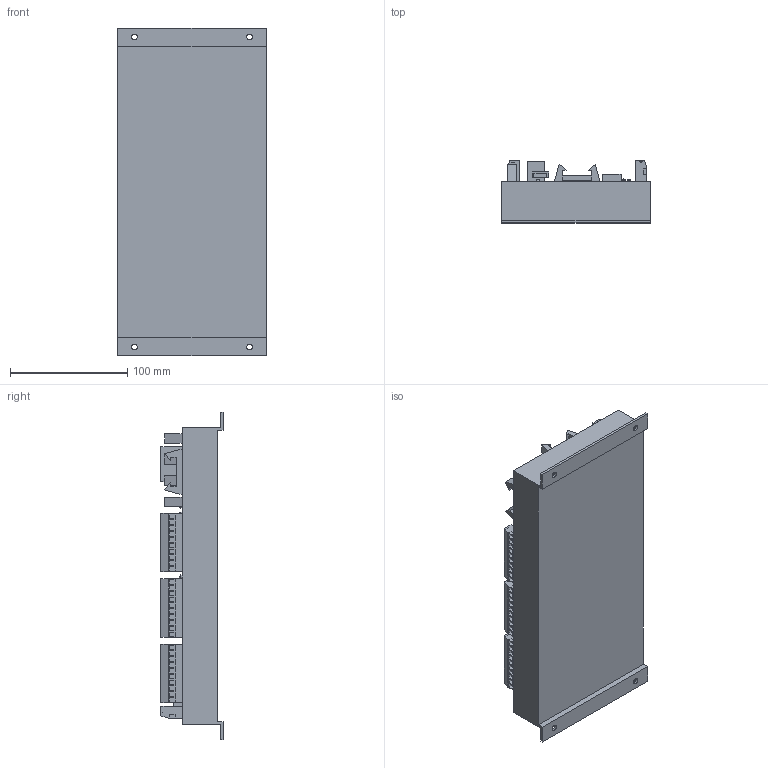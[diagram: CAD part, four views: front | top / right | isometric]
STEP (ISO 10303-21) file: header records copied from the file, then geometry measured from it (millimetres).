
FILE_DESCRIPTION (( 'STEP AP214' ), '1' );
FILE_NAME ('ZMC212.STEP', '2018-08-24T09:25:43', ( 'Microsoft' ), ( ' ' ), 'SwSTEP 2.0', 'SolidWorks 2014', '' );
FILE_SCHEMA (( 'AUTOMOTIVE_DESIGN' ));
Length unit declared in the file: millimetre
Products named in the file (12): U攫; 16渀-2齬-籟褒; 傷赽-湮-5; 傷赽-湮-3; 厙諳-傻; 9渀-2齬-鼠芛; ZMC212-俋褲; ZMC212; 三连灯; 傷赽-湮-6; 傷赽-湮-10; 腑
Assembly tree (24 placements, depth 3):
  ZMC212
    ZMC212-俋褲
    9渀-2齬-鼠芛
    厙諳-傻
    傷赽-湮-3
    傷赽-湮-5
    16渀-2齬-籟褒  x7
    U攫
    腑  x2
    傷赽-湮-10  x4
    傷赽-湮-6
    三连灯
      腑  x3
Bounding box: 127 x 53 x 280 mm (x, y, z)
Volume: 1029064.3 mm3; surface area: 134275.7 mm2
Topology: 74 solids, 74 shells, 2571 faces, 6663 edges, 4437 vertices
Faces by surface type: plane 1849, bspline 388, cylinder 324, sphere 10
Entity records: 75000 total; most frequent: CARTESIAN_POINT 28049, ORIENTED_EDGE 9964, DIRECTION 7524, EDGE_CURVE 4982, VECTOR 3884, LINE 3884, VERTEX_POINT 3321, EDGE_LOOP 1955
